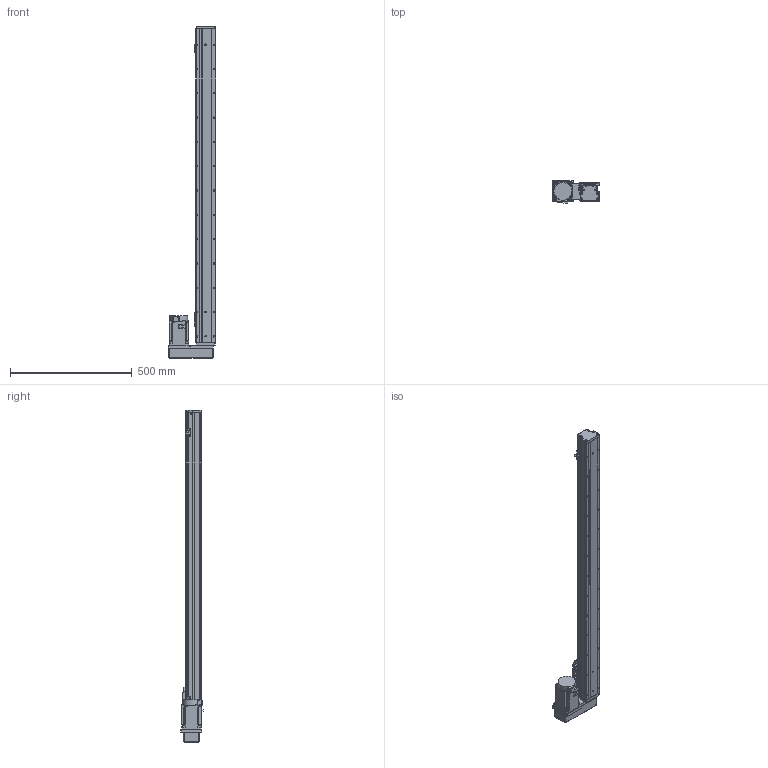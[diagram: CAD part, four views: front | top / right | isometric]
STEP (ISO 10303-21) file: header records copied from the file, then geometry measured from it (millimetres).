
FILE_DESCRIPTION (( 'STEP AP203' ), '1' );
FILE_NAME ('GTH8-1100-BL-M75-C4.step', '2023-02-14T02:23:18', ( '微软用户' ), ( '微软中国' ), 'SwSTEP 2.0', 'SolidWorks 2020', '' );
FILE_SCHEMA (( 'CONFIG_CONTROL_DESIGN' ));
Length unit declared in the file: millimetre
Products named in the file (18): CTHA86-015-3_CTHA86-015-4; GTH80-003; GBT 70.1-M4×16; CTHA86-035; GTH80-004; GTH80-028; hg-kn73j_-s100; GTH80-006; GTH50-024; GTH8-1100-BL-M75-C4; GTH80-013; GTH50-023; GBT 70.3-M3℅6; GBT96.1-2002 3×0.8; GTH80-022; BTH-M3X5X6; GTH80-001_1100; GBT 70.1-M3℅6
Assembly tree (57 placements, depth 2):
  GTH8-1100-BL-M75-C4
    GTH80-001_1100
    GTH80-003
    GTH80-004
    GTH80-006
    GTH80-013
    GBT 70.3-M3℅6  x4
    GTH80-022
    GBT 70.1-M3℅6  x14
    GBT 70.1-M4×16  x8
    GTH80-028  x2
    GTH50-024  x3
    GTH50-023  x3
    GBT96.1-2002 3×0.8  x6
    BTH-M3X5X6  x8
    CTHA86-015-3_CTHA86-015-4
    CTHA86-035
    hg-kn73j_-s100
Bounding box: 193.5 x 92.3 x 1366 mm (x, y, z)
Volume: 7129070 mm3; surface area: 673034.5 mm2
Topology: 59 solids, 59 shells, 2215 faces, 5154 edges, 3160 vertices
Faces by surface type: plane 1153, cylinder 647, cone 243, torus 158, sphere 12, bspline 2
Entity records: 40328 total; most frequent: CARTESIAN_POINT 6767, DIRECTION 6669, ORIENTED_EDGE 6118, EDGE_CURVE 3059, AXIS2_PLACEMENT_3D 2362, VECTOR 1945, LINE 1945, VERTEX_POINT 1935
